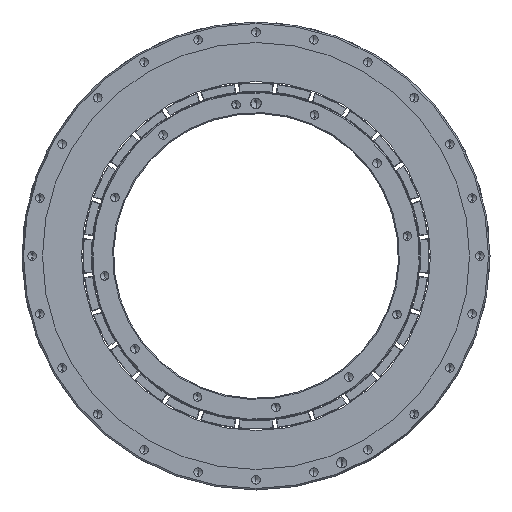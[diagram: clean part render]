
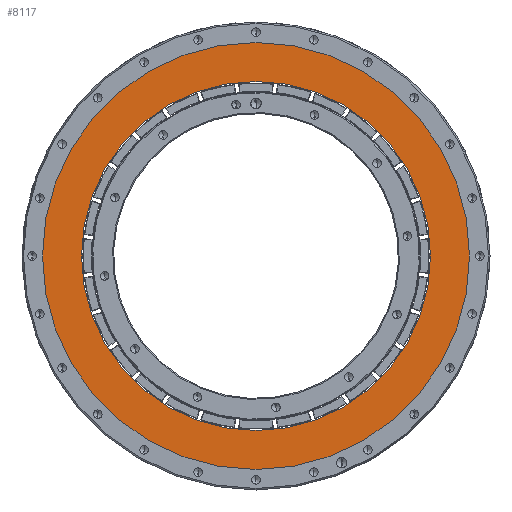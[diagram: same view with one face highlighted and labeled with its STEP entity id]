
A CAD part, front view. The second image highlights one B-rep face of the part: STEP entity #8117.
In plain terms, the highlighted planar face has unit normal (0, -1, 0).
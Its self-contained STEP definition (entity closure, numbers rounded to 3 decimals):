
#353 = CIRCLE ( 'NONE', #20118, 85.765 ) ;
#488 = DIRECTION ( 'NONE',  ( 0., 1., 0. ) ) ;
#674 = DIRECTION ( 'NONE',  ( 0., 0., 1. ) ) ;
#764 = EDGE_CURVE ( 'NONE', #18400, #32217, #353, .T. ) ;
#1912 = DIRECTION ( 'NONE',  ( 0., 0., 1. ) ) ;
#2761 = VERTEX_POINT ( 'NONE', #5820 ) ;
#5820 = CARTESIAN_POINT ( 'NONE',  ( 0., -34., -104.935 ) ) ;
#6517 = CARTESIAN_POINT ( 'NONE',  ( 0., -34., 0. ) ) ;
#7060 = CARTESIAN_POINT ( 'NONE',  ( 0., -34., 104.935 ) ) ;
#7544 = DIRECTION ( 'NONE',  ( 0., 1., 0. ) ) ;
#8117 = ADVANCED_FACE ( 'NONE', ( #32515, #23991 ), #21258, .F. ) ;
#8521 = CARTESIAN_POINT ( 'NONE',  ( 0., -34., 0. ) ) ;
#10094 = CARTESIAN_POINT ( 'NONE',  ( 0., -34., 0. ) ) ;
#10129 = ORIENTED_EDGE ( 'NONE', *, *, #31373, .T. ) ;
#10283 = DIRECTION ( 'NONE',  ( 0., 0., 1. ) ) ;
#10469 = DIRECTION ( 'NONE',  ( 0., 0., 1. ) ) ;
#12674 = CARTESIAN_POINT ( 'NONE',  ( 0., -34., 0. ) ) ;
#15702 = AXIS2_PLACEMENT_3D ( 'NONE', #12674, #7544, #10469 ) ;
#17914 = CARTESIAN_POINT ( 'NONE',  ( 0., -34., 0. ) ) ;
#18400 = VERTEX_POINT ( 'NONE', #33018 ) ;
#18676 = DIRECTION ( 'NONE',  ( 0., 0., 1. ) ) ;
#19117 = ORIENTED_EDGE ( 'NONE', *, *, #21812, .F. ) ;
#20118 = AXIS2_PLACEMENT_3D ( 'NONE', #10094, #32337, #1912 ) ;
#20983 = AXIS2_PLACEMENT_3D ( 'NONE', #8521, #488, #674 ) ;
#21258 = PLANE ( 'NONE',  #15702 ) ;
#21520 = VERTEX_POINT ( 'NONE', #7060 ) ;
#21683 = CIRCLE ( 'NONE', #30993, 104.935 ) ;
#21812 = EDGE_CURVE ( 'NONE', #2761, #21520, #35620, .T. ) ;
#22979 = EDGE_LOOP ( 'NONE', ( #24860, #10129 ) ) ;
#23785 = DIRECTION ( 'NONE',  ( 0., 1., 0. ) ) ;
#23991 = FACE_BOUND ( 'NONE', #22979, .T. ) ;
#24860 = ORIENTED_EDGE ( 'NONE', *, *, #764, .T. ) ;
#26220 = CIRCLE ( 'NONE', #20983, 85.765 ) ;
#26468 = CARTESIAN_POINT ( 'NONE',  ( 0., -34., 85.765 ) ) ;
#28748 = DIRECTION ( 'NONE',  ( 0., 1., 0. ) ) ;
#28815 = EDGE_CURVE ( 'NONE', #21520, #2761, #21683, .T. ) ;
#29158 = ORIENTED_EDGE ( 'NONE', *, *, #28815, .F. ) ;
#29811 = AXIS2_PLACEMENT_3D ( 'NONE', #17914, #23785, #10283 ) ;
#29880 = EDGE_LOOP ( 'NONE', ( #19117, #29158 ) ) ;
#30993 = AXIS2_PLACEMENT_3D ( 'NONE', #6517, #28748, #18676 ) ;
#31373 = EDGE_CURVE ( 'NONE', #32217, #18400, #26220, .T. ) ;
#32217 = VERTEX_POINT ( 'NONE', #26468 ) ;
#32337 = DIRECTION ( 'NONE',  ( 0., 1., 0. ) ) ;
#32515 = FACE_OUTER_BOUND ( 'NONE', #29880, .T. ) ;
#33018 = CARTESIAN_POINT ( 'NONE',  ( 0., -34., -85.765 ) ) ;
#35620 = CIRCLE ( 'NONE', #29811, 104.935 ) ;
